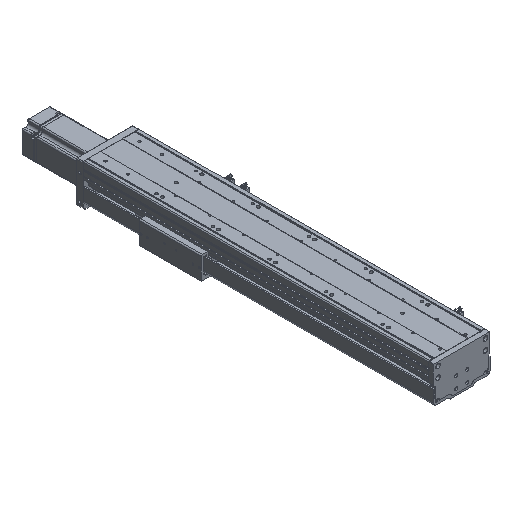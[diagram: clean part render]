
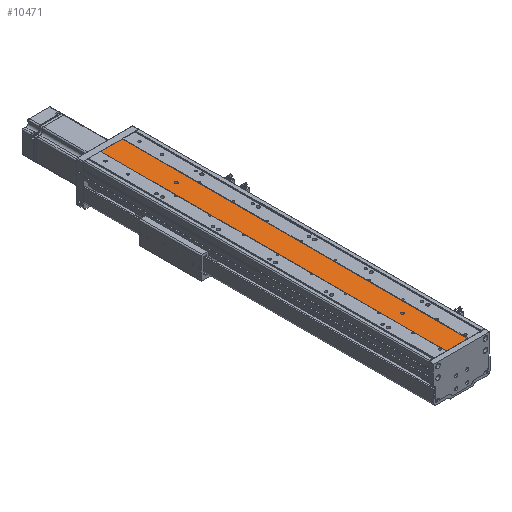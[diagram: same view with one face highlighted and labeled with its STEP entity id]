
A CAD part, isometric view. The second image highlights one B-rep face of the part: STEP entity #10471.
In plain terms, the highlighted planar face has unit normal (0, 0, 1).
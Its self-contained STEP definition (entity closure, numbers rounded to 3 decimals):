
#4065 = EDGE_CURVE ( 'NONE', #42516, #42499, #8962, .T. ) ;
#4066 = EDGE_CURVE ( 'NONE', #42535, #42499, #9071, .T. ) ;
#4099 = EDGE_CURVE ( 'NONE', #42496, #42516, #9070, .T. ) ;
#4101 = EDGE_CURVE ( 'NONE', #42085, #42150, #9075, .T. ) ;
#8962 = LINE ( 'NONE', #31780, #9048 ) ;
#9037 = VECTOR ( 'NONE', #31787, 1000. ) ;
#9048 = VECTOR ( 'NONE', #31781, 1000. ) ;
#9060 = VECTOR ( 'NONE', #29634, 1000. ) ;
#9070 = LINE ( 'NONE', #29922, #9060 ) ;
#9071 = LINE ( 'NONE', #31777, #9037 ) ;
#9075 = CIRCLE ( 'NONE', #36977, 2.5 ) ;
#10471 = ADVANCED_FACE ( 'NONE', ( #39345, #39348, #39317 ), #30691, .F. ) ;
#13765 = EDGE_LOOP ( 'NONE', ( #41098, #41080 ) ) ;
#13777 = EDGE_LOOP ( 'NONE', ( #41053, #41059 ) ) ;
#13801 = EDGE_LOOP ( 'NONE', ( #41075, #41026, #41025, #41074 ) ) ;
#20909 = EDGE_CURVE ( 'NONE', #42496, #42535, #33765, .T. ) ;
#20929 = EDGE_CURVE ( 'NONE', #42079, #41940, #33749, .T. ) ;
#21219 = EDGE_CURVE ( 'NONE', #41940, #42079, #36090, .T. ) ;
#21238 = EDGE_CURVE ( 'NONE', #42150, #42085, #36108, .T. ) ;
#23477 = DIRECTION ( 'NONE',  ( -1., 0., 0. ) ) ;
#23506 = DIRECTION ( 'NONE',  ( 0., 0., -1. ) ) ;
#24128 = CARTESIAN_POINT ( 'NONE',  ( -10623.579, 97., -17040.86 ) ) ;
#25349 = CARTESIAN_POINT ( 'NONE',  ( -10623.579, 497., -17040.86 ) ) ;
#25425 = CARTESIAN_POINT ( 'NONE',  ( -10628.579, 497., -17040.86 ) ) ;
#25460 = CARTESIAN_POINT ( 'NONE',  ( -10628.579, 97., -17040.86 ) ) ;
#25805 = CARTESIAN_POINT ( 'NONE',  ( -10607.079, 0., -17040.86 ) ) ;
#25815 = CARTESIAN_POINT ( 'NONE',  ( -10645.079, 0., -17040.86 ) ) ;
#25822 = CARTESIAN_POINT ( 'NONE',  ( -10645.079, 612., -17040.86 ) ) ;
#25842 = CARTESIAN_POINT ( 'NONE',  ( -10607.079, 612., -17040.86 ) ) ;
#29634 = DIRECTION ( 'NONE',  ( 1., 0., 0. ) ) ;
#29919 = CARTESIAN_POINT ( 'NONE',  ( -10626.079, 97., -17040.86 ) ) ;
#29922 = CARTESIAN_POINT ( 'NONE',  ( -10645.079, 612., -17040.86 ) ) ;
#30685 = DIRECTION ( 'NONE',  ( 0., 0., -1. ) ) ;
#30691 = PLANE ( 'NONE',  #39859 ) ;
#30710 = DIRECTION ( 'NONE',  ( -1., 0., 0. ) ) ;
#30716 = CARTESIAN_POINT ( 'NONE',  ( -10645.079, 612., -17040.86 ) ) ;
#31777 = CARTESIAN_POINT ( 'NONE',  ( -10645.079, 0., -17040.86 ) ) ;
#31780 = CARTESIAN_POINT ( 'NONE',  ( -10607.079, 612., -17040.86 ) ) ;
#31781 = DIRECTION ( 'NONE',  ( 0., -1., 0. ) ) ;
#31787 = DIRECTION ( 'NONE',  ( 1., 0., 0. ) ) ;
#33749 = CIRCLE ( 'NONE', #40439, 2.5 ) ;
#33750 = VECTOR ( 'NONE', #34966, 1000. ) ;
#33765 = LINE ( 'NONE', #34954, #33750 ) ;
#34954 = CARTESIAN_POINT ( 'NONE',  ( -10645.079, 612., -17040.86 ) ) ;
#34966 = DIRECTION ( 'NONE',  ( 0., -1., 0. ) ) ;
#34990 = DIRECTION ( 'NONE',  ( 0., 0., -1. ) ) ;
#35006 = DIRECTION ( 'NONE',  ( -1., 0., 0. ) ) ;
#35016 = CARTESIAN_POINT ( 'NONE',  ( -10626.079, 497., -17040.86 ) ) ;
#35641 = CARTESIAN_POINT ( 'NONE',  ( -10626.079, 497., -17040.86 ) ) ;
#35644 = DIRECTION ( 'NONE',  ( 0., 0., -1. ) ) ;
#35665 = DIRECTION ( 'NONE',  ( -1., 0., 0. ) ) ;
#35680 = DIRECTION ( 'NONE',  ( 0., 0., -1. ) ) ;
#35681 = DIRECTION ( 'NONE',  ( -1., 0., 0. ) ) ;
#35699 = CARTESIAN_POINT ( 'NONE',  ( -10626.079, 97., -17040.86 ) ) ;
#36090 = CIRCLE ( 'NONE', #40485, 2.5 ) ;
#36108 = CIRCLE ( 'NONE', #40484, 2.5 ) ;
#36977 = AXIS2_PLACEMENT_3D ( 'NONE', #29919, #23506, #23477 ) ;
#39317 = FACE_OUTER_BOUND ( 'NONE', #13801, .T. ) ;
#39345 = FACE_BOUND ( 'NONE', #13777, .T. ) ;
#39348 = FACE_BOUND ( 'NONE', #13765, .T. ) ;
#39859 = AXIS2_PLACEMENT_3D ( 'NONE', #30716, #30685, #30710 ) ;
#40439 = AXIS2_PLACEMENT_3D ( 'NONE', #35016, #34990, #35006 ) ;
#40484 = AXIS2_PLACEMENT_3D ( 'NONE', #35699, #35680, #35681 ) ;
#40485 = AXIS2_PLACEMENT_3D ( 'NONE', #35641, #35644, #35665 ) ;
#41025 = ORIENTED_EDGE ( 'NONE', *, *, #4099, .F. ) ;
#41026 = ORIENTED_EDGE ( 'NONE', *, *, #4065, .F. ) ;
#41053 = ORIENTED_EDGE ( 'NONE', *, *, #21219, .T. ) ;
#41059 = ORIENTED_EDGE ( 'NONE', *, *, #20929, .T. ) ;
#41074 = ORIENTED_EDGE ( 'NONE', *, *, #20909, .T. ) ;
#41075 = ORIENTED_EDGE ( 'NONE', *, *, #4066, .T. ) ;
#41080 = ORIENTED_EDGE ( 'NONE', *, *, #4101, .T. ) ;
#41098 = ORIENTED_EDGE ( 'NONE', *, *, #21238, .T. ) ;
#41940 = VERTEX_POINT ( 'NONE', #25349 ) ;
#42079 = VERTEX_POINT ( 'NONE', #25425 ) ;
#42085 = VERTEX_POINT ( 'NONE', #25460 ) ;
#42150 = VERTEX_POINT ( 'NONE', #24128 ) ;
#42496 = VERTEX_POINT ( 'NONE', #25822 ) ;
#42499 = VERTEX_POINT ( 'NONE', #25805 ) ;
#42516 = VERTEX_POINT ( 'NONE', #25842 ) ;
#42535 = VERTEX_POINT ( 'NONE', #25815 ) ;
